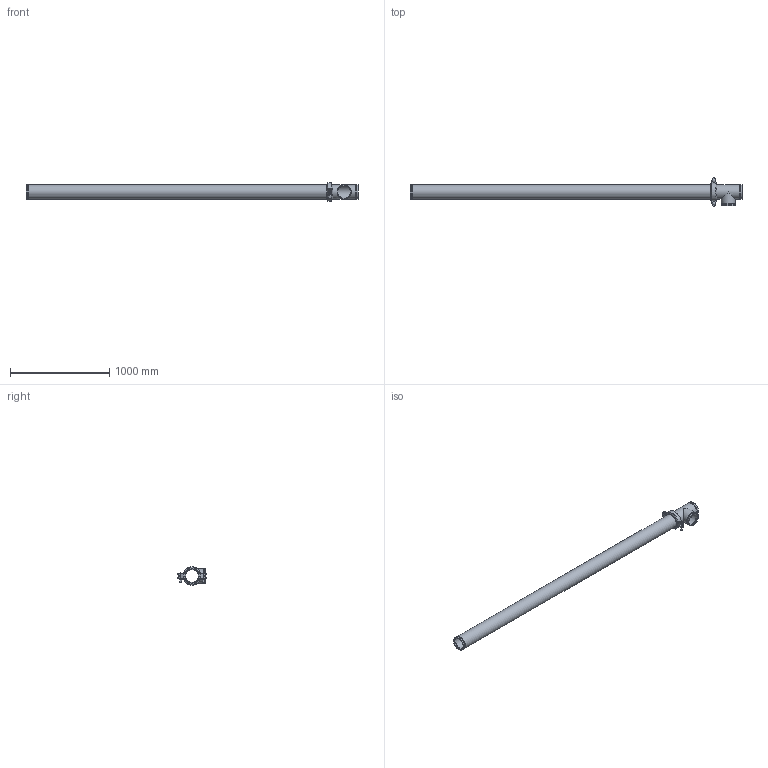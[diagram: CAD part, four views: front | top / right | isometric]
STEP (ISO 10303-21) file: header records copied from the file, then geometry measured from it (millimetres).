
FILE_DESCRIPTION(/* description */ ('VIC LONG RUN FITTING No R25 (OGS)','CAx-IF Rec.Pracs.---Representation and Presentation of Product Manufacturing Information (PMI)---4.0---2014-10-13'),/* implementation_level */ '2;1');
FILE_NAME(/* name */ 'C:\Users\Vjadhav\AppData\Roaming\Autodesk\ApplicationPlugins\Back Up\Victaulic_IPS_Long Run Fittings_No R25 (OGS)\Victaulic_IPS_Long Run Fittings_No R25 (OGS)_5 (125).stp',/* time_stamp */ '2020-10-14T10:38:58+05:00',/* author */ ('Vjadhav'),/* organization */ ('Victaulic'),/* preprocessor_version */ 'ST-DEVELOPER v17.2',/* originating_system */ 'Autodesk Inventor 2019',/* authorisation */ '');
FILE_SCHEMA (('AP242_MANAGED_MODEL_BASED_3D_ENGINEERING_MIM_LF { 1 0 10303 442 1 1 4 }'));
Length unit declared in the file: inch
Products named in the file (4): R25-05.0; 020-05.0; 177N-05.0; Pipe_R13-05.0
Assembly tree (3 placements, depth 2):
  R25-05.0
    020-05.0
    177N-05.0
    Pipe_R13-05.0
Bounding box: 3337.05 x 284.03 x 185.67 mm (x, y, z)
Volume: 10158079.9 mm3; surface area: 2997307.1 mm2
Topology: 3 solids, 3 shells, 122 faces, 323 edges, 222 vertices
Faces by surface type: plane 71, cylinder 41, cone 4, torus 4, sphere 2
Full cylindrical faces by diameter (mm): 17.78 x2, 30.48 x2, 128.194 x3, 128.6 x1, 137.033 x5, 141.3 x10
Entity records: 4247 total; most frequent: CARTESIAN_POINT 750, DIRECTION 711, ORIENTED_EDGE 654, EDGE_CURVE 327, AXIS2_PLACEMENT_3D 271, VERTEX_POINT 222, LINE 169, VECTOR 169
